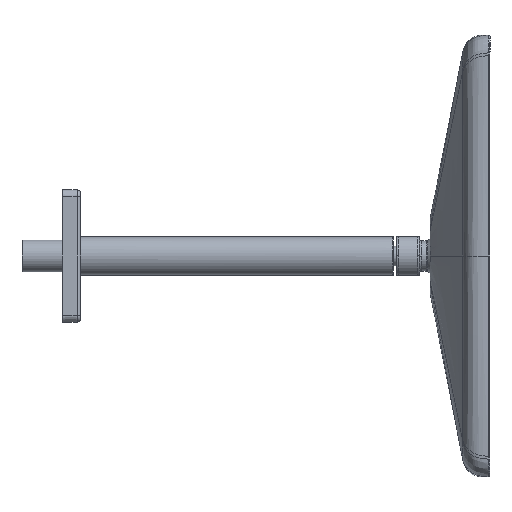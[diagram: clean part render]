
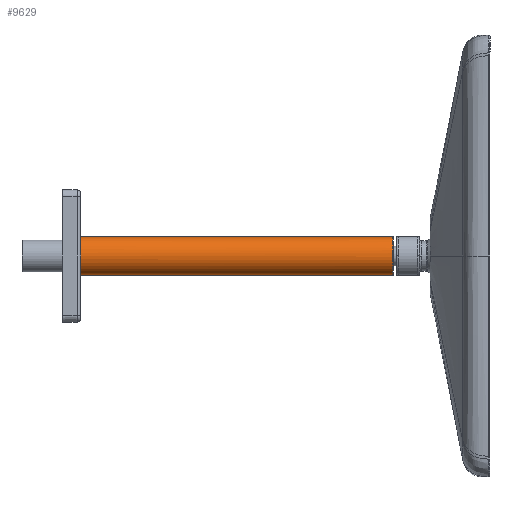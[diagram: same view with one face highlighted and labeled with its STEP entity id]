
A CAD part, left-side view. The second image highlights one B-rep face of the part: STEP entity #9629.
In plain terms, the highlighted cylindrical face has radius 11 mm (diameter 22 mm), a partial arc.
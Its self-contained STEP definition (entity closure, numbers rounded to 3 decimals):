
#153 = AXIS2_PLACEMENT_3D ( 'NONE', #10043, #9324, #7025 ) ;
#326 = CARTESIAN_POINT ( 'NONE',  ( 0., -111.7, -11. ) ) ;
#495 = DIRECTION ( 'NONE',  ( 0., 1., 0. ) ) ;
#532 = DIRECTION ( 'NONE',  ( 0., 0., -1. ) ) ;
#738 = FACE_OUTER_BOUND ( 'NONE', #8052, .T. ) ;
#992 = DIRECTION ( 'NONE',  ( 0., -1., 0. ) ) ;
#1768 = VECTOR ( 'NONE', #10083, 1000. ) ;
#2054 = CARTESIAN_POINT ( 'NONE',  ( -10.995, -111.7, -0.321 ) ) ;
#2110 = ORIENTED_EDGE ( 'NONE', *, *, #7315, .F. ) ;
#3144 = CIRCLE ( 'NONE', #153, 11. ) ;
#3233 = ORIENTED_EDGE ( 'NONE', *, *, #3514, .T. ) ;
#3449 = EDGE_CURVE ( 'NONE', #8444, #8280, #5811, .T. ) ;
#3473 = AXIS2_PLACEMENT_3D ( 'NONE', #3602, #495, #532 ) ;
#3514 = EDGE_CURVE ( 'NONE', #7933, #4554, #3144, .T. ) ;
#3602 = CARTESIAN_POINT ( 'NONE',  ( 0., -111.7, 0. ) ) ;
#3664 = AXIS2_PLACEMENT_3D ( 'NONE', #6431, #992, #4200 ) ;
#3750 = CARTESIAN_POINT ( 'NONE',  ( 0., 84.4, 0. ) ) ;
#3992 = CARTESIAN_POINT ( 'NONE',  ( 0., 64.84, -11. ) ) ;
#4200 = DIRECTION ( 'NONE',  ( 1., 0., 0. ) ) ;
#4475 = DIRECTION ( 'NONE',  ( 0., 0., -1. ) ) ;
#4554 = VERTEX_POINT ( 'NONE', #2054 ) ;
#4978 = EDGE_CURVE ( 'NONE', #4554, #6225, #6043, .T. ) ;
#5128 = CYLINDRICAL_SURFACE ( 'NONE', #6625, 11. ) ;
#5811 = CIRCLE ( 'NONE', #3664, 11. ) ;
#6043 = CIRCLE ( 'NONE', #3473, 11. ) ;
#6225 = VERTEX_POINT ( 'NONE', #9092 ) ;
#6431 = CARTESIAN_POINT ( 'NONE',  ( 0., 64.84, 0. ) ) ;
#6555 = CARTESIAN_POINT ( 'NONE',  ( 0., 84.4, -11. ) ) ;
#6580 = ORIENTED_EDGE ( 'NONE', *, *, #9374, .T. ) ;
#6625 = AXIS2_PLACEMENT_3D ( 'NONE', #3750, #7669, #4475 ) ;
#7025 = DIRECTION ( 'NONE',  ( 0., 0., -1. ) ) ;
#7315 = EDGE_CURVE ( 'NONE', #8444, #6225, #7502, .T. ) ;
#7502 = LINE ( 'NONE', #9058, #1768 ) ;
#7669 = DIRECTION ( 'NONE',  ( 0., -1., 0. ) ) ;
#7691 = VECTOR ( 'NONE', #9675, 1000. ) ;
#7933 = VERTEX_POINT ( 'NONE', #326 ) ;
#8052 = EDGE_LOOP ( 'NONE', ( #2110, #9592, #6580, #3233, #9292 ) ) ;
#8280 = VERTEX_POINT ( 'NONE', #3992 ) ;
#8444 = VERTEX_POINT ( 'NONE', #8945 ) ;
#8945 = CARTESIAN_POINT ( 'NONE',  ( 0., 64.84, 11. ) ) ;
#9058 = CARTESIAN_POINT ( 'NONE',  ( 0., 84.4, 11. ) ) ;
#9092 = CARTESIAN_POINT ( 'NONE',  ( 0., -111.7, 11. ) ) ;
#9292 = ORIENTED_EDGE ( 'NONE', *, *, #4978, .T. ) ;
#9324 = DIRECTION ( 'NONE',  ( 0., 1., 0. ) ) ;
#9374 = EDGE_CURVE ( 'NONE', #8280, #7933, #9751, .T. ) ;
#9592 = ORIENTED_EDGE ( 'NONE', *, *, #3449, .T. ) ;
#9629 = ADVANCED_FACE ( 'NONE', ( #738 ), #5128, .T. ) ;
#9675 = DIRECTION ( 'NONE',  ( 0., -1., 0. ) ) ;
#9751 = LINE ( 'NONE', #6555, #7691 ) ;
#10043 = CARTESIAN_POINT ( 'NONE',  ( 0., -111.7, 0. ) ) ;
#10083 = DIRECTION ( 'NONE',  ( 0., -1., 0. ) ) ;
